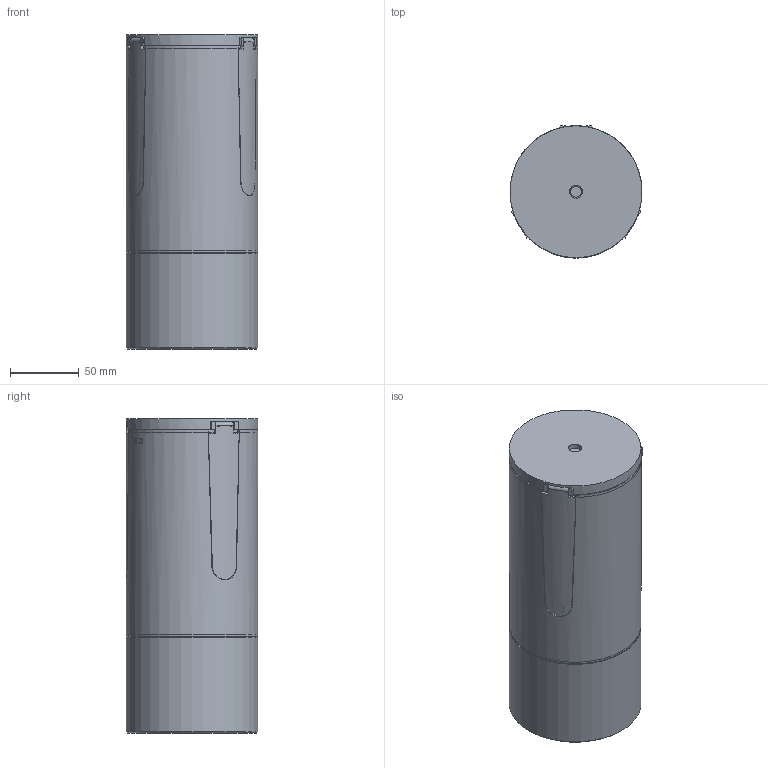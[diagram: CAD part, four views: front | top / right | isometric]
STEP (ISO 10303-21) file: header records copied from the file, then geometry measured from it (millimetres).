
FILE_DESCRIPTION(('Open CASCADE Model'),'2;1');
FILE_NAME('Open CASCADE Shape Model','2026-11-11T19:28:18',('Author'),( 'Open CASCADE'),'Open CASCADE STEP processor 7.9','Open CASCADE 7.9' ,'Unknown');
FILE_SCHEMA(('AUTOMOTIVE_DESIGN { 1 0 10303 214 1 1 1 1 }'));
Length unit declared in the file: millimetre
Products named in the file (77): cansat_zenit; carcasa_secundaria; tapa_secundaria; bandeja_secundaria; piso_primaria; anillo_retencion; disco_huevo_base; disco_electronica_base; tapa_electronica; carcasa_primaria; rotor; aspa_1; aspa_2; aspa_3; espaciador_base_0; espaciador_huevo_0; espaciador_base_1; espaciador_huevo_1; espaciador_base_2; espaciador_huevo_2; separador_placas_0_0; separador_placas_0_1; separador_placas_0_2; separador_placas_0_3; separador_placas_1_0; separador_placas_1_1; separador_placas_1_2; separador_placas_1_3; separador_placas_2_0; separador_placas_2_1; separador_placas_2_2; separador_placas_2_3; huevo_primaria; huevo_secundaria; pila_primaria; pila_secundaria; servo_desacople; servo_autogiro; pasador; placa_1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
Assembly tree (76 placements, depth 2):
  cansat_zenit
    carcasa_secundaria
    tapa_secundaria
    bandeja_secundaria
    piso_primaria
    anillo_retencion
    disco_huevo_base
    disco_electronica_base
    tapa_electronica
    carcasa_primaria
    rotor
    aspa_1
    aspa_2
    aspa_3
    espaciador_base_0
    espaciador_huevo_0
    espaciador_base_1
    espaciador_huevo_1
    espaciador_base_2
    espaciador_huevo_2
    separador_placas_0_0
    separador_placas_0_1
    separador_placas_0_2
    separador_placas_0_3
    separador_placas_1_0
    separador_placas_1_1
    separador_placas_1_2
    separador_placas_1_3
    separador_placas_2_0
    separador_placas_2_1
    separador_placas_2_2
    separador_placas_2_3
    huevo_primaria
    huevo_secundaria
    pila_primaria
    pila_secundaria
    servo_desacople
    servo_autogiro
    pasador
    placa_1
    placa_2
    placa_3
    heltec
    gy91
    neo_m8n
    openlog
    antena_gps
    balero_608
    antena_lora
    oring
    hule_abajo_0
    hule_arriba_0
    hule_abajo_1
    hule_arriba_1
    hule_abajo_2
    hule_arriba_2
    hule_abajo_3
    hule_arriba_3
    espuma_huevo1_abajo
    espuma_huevo1_arriba
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Bounding box: 96 x 96 x 229 mm (x, y, z)
Volume: 487550.3 mm3; surface area: 380211.5 mm2
Topology: 78 solids, 79 shells, 1552 faces, 3875 edges, 2552 vertices
Faces by surface type: plane 1185, cylinder 358, cone 6, revolution 2, torus 1
Full cylindrical faces by diameter (mm): 1.2 x1, 1.6 x4, 1.7 x3, 2.3 x3, 2.4 x3, 2.5 x1, 3 x8, 3.2 x21, 3.4 x63, 3.8 x3, 4.2 x3, 4.4 x2, 5.6 x21, 6 x6, 7 x2, 7.2 x4, 7.9 x1, 8 x12, 8.2 x6, 9.5 x1, 10.4 x1, 10.5 x1, 11.8 x2, 12 x1, 14 x1, 16 x1, 16.1 x1, 18 x1, 22 x2, 32 x2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
Entity records: 105716 total; most frequent: CARTESIAN_POINT 27382, DIRECTION 13716, LINE 8177, VECTOR 8177, ORIENTED_EDGE 7736, PCURVE 7730, DEFINITIONAL_REPRESENTATION 7730, EDGE_CURVE 3865
